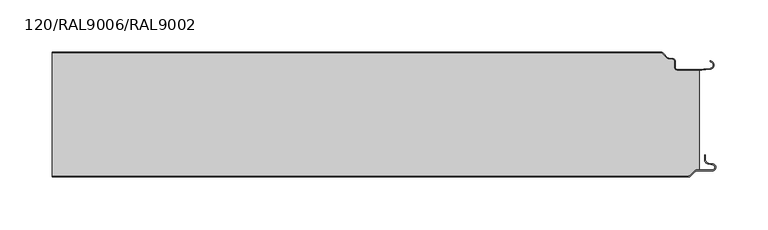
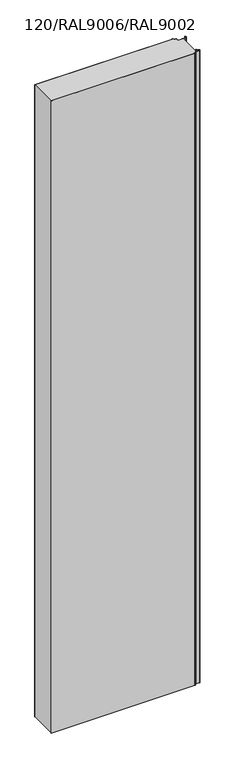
"""IFC4 building model written with IfcOpenShell, lengths in millimetres: plate geometry, TR_C_V_FHL_Panel_cut_TONGUE : 120/RAL9006/RAL9002."""

from ifc_helpers import new_model, si_unit, point, frame_2d, origin, origin_with_axes, place, context, project, spatial, polyline, circle_curve, trimmed, segment, composite_curve, outline, extrude, source, transform, mapped, element, save


def plate_120_ral9006_ral9002_540726e8(model_context):
    return source(origin(), model_context, "Body", "SweptSolid", [
        extrude(outline(composite_curve([segment(trimmed(circle_curve(frame_2d((299.8218253, -117.0)), 3.0), [point((301.9431456, -119.1213203))], [point((299.8218253, -120.0))], False, "CARTESIAN"), True, "CONTINUOUS"), segment(polyline([(299.8218253, -120.0), (-309.9999998, -120.0), (-309.9999998, -119.2), (299.8218253, -119.2)]), True, "CONTINUOUS"), segment(trimmed(circle_curve(frame_2d((299.8218253, -117.0)), 2.2), [point((299.8218253, -119.2))], [point((301.3774602, -118.5556349))], True, "CARTESIAN"), True, "CONTINUOUS"), segment(polyline([(301.3774602, -118.5556349), (305.7665475, -114.1665476)]), True, "CONTINUOUS"), segment(trimmed(circle_curve(frame_2d((308.0999998, -116.5)), 3.3), [point((305.7665475, -114.1665476))], [point((308.0999998, -113.2))], False, "CARTESIAN"), True, "CONTINUOUS"), segment(polyline([(308.0999998, -113.2), (322.8499998, -113.2)]), True, "CONTINUOUS"), segment(trimmed(circle_curve(frame_2d((322.8499998, -110.75)), 2.45), [point((322.8499998, -113.2))], [point((323.2754379, -108.337221))], True, "CARTESIAN"), True, "CONTINUOUS"), segment(polyline([(323.2754379, -108.337221), (319.0599006, -107.5939081)]), True, "CONTINUOUS"), segment(trimmed(circle_curve(frame_2d((319.8499998, -103.1130328)), 4.55), [point((319.0599006, -107.5939081))], [point((315.2999998, -103.1130328))], False, "CARTESIAN"), True, "CONTINUOUS"), segment(polyline([(315.2999998, -103.1130328), (315.2999998, -99.0), (316.0999998, -99.0), (316.0999998, -103.1130328)]), True, "CONTINUOUS"), segment(trimmed(circle_curve(frame_2d((319.8499998, -103.1130328)), 3.75), [point((316.0999998, -103.1130328))], [point((319.1988192, -106.8060618))], True, "CARTESIAN"), True, "CONTINUOUS"), segment(polyline([(319.1988192, -106.8060618), (323.4143564, -107.5493748)]), True, "CONTINUOUS"), segment(trimmed(circle_curve(frame_2d((322.8499998, -110.75)), 3.25), [point((323.4143564, -107.5493748))], [point((322.8499998, -114.0))], False, "CARTESIAN"), True, "CONTINUOUS"), segment(polyline([(322.8499998, -114.0), (308.0999998, -114.0)]), True, "CONTINUOUS"), segment(trimmed(circle_curve(frame_2d((308.0999998, -116.5)), 2.5), [point((308.0999998, -114.0))], [point((306.3322329, -114.732233))], True, "CARTESIAN"), True, "CONTINUOUS"), segment(polyline([(306.3322329, -114.732233), (301.9431456, -119.1213203)]), True, "CONTINUOUS")], self_intersect=False)), origin_with_axes(), (0.0, 0.0, 1.0), 2830.0),
        extrude(outline(composite_curve([segment(trimmed(circle_curve(frame_2d((273.4370796, -2.7)), 1.9), [point((273.4370796, -0.8))], [point((274.7805825, -1.3564971))], False, "CARTESIAN"), True, "CONTINUOUS"), segment(polyline([(274.7805825, -1.3564971), (279.6039843, -6.179899)]), True, "CONTINUOUS"), segment(trimmed(circle_curve(frame_2d((281.5838833, -4.2)), 2.8), [point((279.6039843, -6.179899))], [point((281.5838833, -7.0))], True, "CARTESIAN"), True, "CONTINUOUS"), segment(polyline([(281.5838833, -7.0), (284.3999998, -7.0)]), True, "CONTINUOUS"), segment(trimmed(circle_curve(frame_2d((284.3999998, -8.9)), 1.9), [point((284.3999998, -7.0))], [point((286.2999998, -8.9))], False, "CARTESIAN"), True, "CONTINUOUS"), segment(polyline([(286.2999998, -8.9), (286.2999998, -14.8)]), True, "CONTINUOUS"), segment(trimmed(circle_curve(frame_2d((289.0999998, -14.8)), 2.8), [point((286.2999998, -14.8))], [point((289.0999998, -17.6))], True, "CARTESIAN"), True, "CONTINUOUS"), segment(polyline([(289.0999998, -17.6), (308.2349286, -17.6), (309.9999998, -17.4455763), (309.9999998, -113.2), (308.0999998, -113.2)]), True, "CONTINUOUS"), segment(trimmed(circle_curve(frame_2d((308.0999998, -116.5)), 3.3), [point((308.0999998, -113.2))], [point((305.7665475, -114.1665476))], True, "CARTESIAN"), True, "CONTINUOUS"), segment(polyline([(305.7665475, -114.1665476), (301.3774602, -118.5556349)]), True, "CONTINUOUS"), segment(trimmed(circle_curve(frame_2d((299.8218253, -117.0)), 2.2), [point((301.3774602, -118.5556349))], [point((299.8218253, -119.2))], False, "CARTESIAN"), True, "CONTINUOUS"), segment(polyline([(299.8218253, -119.2), (-309.9999998, -119.2), (-309.9999998, -0.8), (273.4370796, -0.8)]), True, "CONTINUOUS")], self_intersect=False)), origin_with_axes(), (0.0, 0.0, 1.0), 2830.0),
        extrude(outline(composite_curve([segment(trimmed(circle_curve(frame_2d((273.4370796, -2.7)), 1.9), [point((274.7805825, -1.3564971))], [point((273.4370796, -0.8))], True, "CARTESIAN"), True, "CONTINUOUS"), segment(polyline([(273.4370796, -0.8), (-309.9999998, -0.8), (-309.9999998, 0.0), (273.4370796, 0.0)]), True, "CONTINUOUS"), segment(trimmed(circle_curve(frame_2d((273.4370796, -2.7)), 2.7), [point((273.4370796, 0.0))], [point((275.3462679, -0.7908117))], False, "CARTESIAN"), True, "CONTINUOUS"), segment(polyline([(275.3462679, -0.7908117), (280.1696698, -5.6142136)]), True, "CONTINUOUS"), segment(trimmed(circle_curve(frame_2d((281.5838833, -4.2)), 2.0), [point((280.1696698, -5.6142136))], [point((281.5838833, -6.2))], True, "CARTESIAN"), True, "CONTINUOUS"), segment(polyline([(281.5838833, -6.2), (284.3999998, -6.2)]), True, "CONTINUOUS"), segment(trimmed(circle_curve(frame_2d((284.3999998, -8.9)), 2.7), [point((284.3999998, -6.2))], [point((287.0999998, -8.9))], False, "CARTESIAN"), True, "CONTINUOUS"), segment(polyline([(287.0999998, -8.9), (287.0999998, -14.8)]), True, "CONTINUOUS"), segment(trimmed(circle_curve(frame_2d((289.0999998, -14.8)), 2.0), [point((287.0999998, -14.8))], [point((289.0999998, -16.8))], True, "CARTESIAN"), True, "CONTINUOUS"), segment(polyline([(289.0999998, -16.8), (308.1999998, -16.8), (320.6788982, -15.7082379)]), True, "CONTINUOUS"), segment(trimmed(circle_curve(frame_2d((320.3999998, -12.5204148)), 3.2), [point((320.6788982, -15.7082379))], [point((321.4418179, -9.4947554))], True, "CARTESIAN"), True, "CONTINUOUS"), segment(polyline([(321.4418179, -9.4947554), (320.542633, -9.1851412), (320.8030875, -8.4287263), (321.7022725, -8.7383405)]), True, "CONTINUOUS"), segment(trimmed(circle_curve(frame_2d((320.3999998, -12.5204148)), 4.0), [point((321.7022725, -8.7383405))], [point((320.7486228, -16.5051936))], False, "CARTESIAN"), True, "CONTINUOUS"), segment(polyline([(320.7486228, -16.5051936), (308.2349286, -17.6), (289.0999998, -17.6)]), True, "CONTINUOUS"), segment(trimmed(circle_curve(frame_2d((289.0999998, -14.8)), 2.8), [point((289.0999998, -17.6))], [point((286.2999998, -14.8))], False, "CARTESIAN"), True, "CONTINUOUS"), segment(polyline([(286.2999998, -14.8), (286.2999998, -8.9)]), True, "CONTINUOUS"), segment(trimmed(circle_curve(frame_2d((284.3999998, -8.9)), 1.9), [point((286.2999998, -8.9))], [point((284.3999998, -7.0))], True, "CARTESIAN"), True, "CONTINUOUS"), segment(polyline([(284.3999998, -7.0), (281.5838833, -7.0)]), True, "CONTINUOUS"), segment(trimmed(circle_curve(frame_2d((281.5838833, -4.2)), 2.8), [point((281.5838833, -7.0))], [point((279.6039843, -6.179899))], False, "CARTESIAN"), True, "CONTINUOUS"), segment(polyline([(279.6039843, -6.179899), (274.7805825, -1.3564971)]), True, "CONTINUOUS")], self_intersect=False)), origin_with_axes(), (0.0, 0.0, 1.0), 2830.0),
    ])


if __name__ == "__main__":
    model = new_model("IFC4")
    model_context = context("Model", 3, world=origin())
    ifc_project = project(units=[si_unit("LENGTHUNIT", "METRE", prefix="MILLI")], contexts=[model_context])
    site = spatial("IfcSite", under=ifc_project)
    building = spatial("IfcBuilding", under=site)
    placement = place(None, origin())
    plate_120_ral9006_ral9002_shape = plate_120_ral9006_ral9002_540726e8(model_context)
    element("IfcPlate", 1, ObjectType="TR_C_V_FHL_Panel_cut_TONGUE : 120/RAL9006/RAL9002", at=placement, inside=building, context=model_context, shape_type="MappedRepresentation", body=[
        mapped(plate_120_ral9006_ral9002_shape, transform((0.0, 0.0, 0.0), x_axis=(1.0, 0.0, 0.0), y_axis=(0.0, 1.0, 0.0), z_axis=(0.0, 0.0, 1.0))),
    ])
    save(model, "model.ifc")
